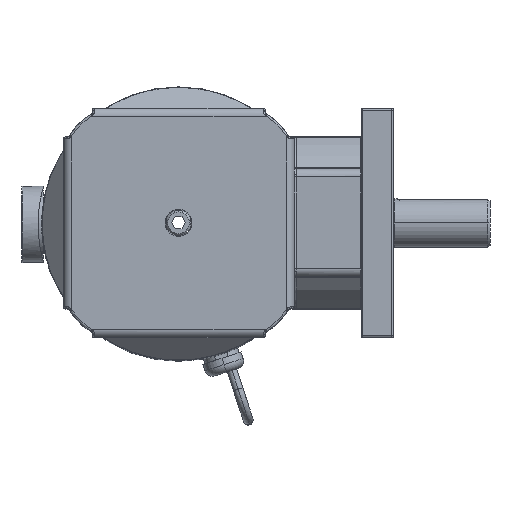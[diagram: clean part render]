
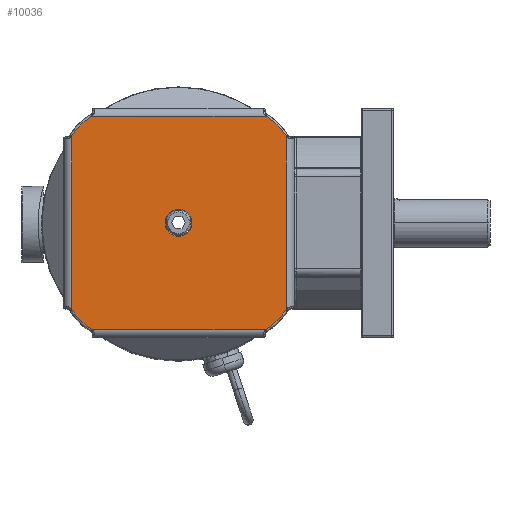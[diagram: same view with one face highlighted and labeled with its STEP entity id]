
A CAD part, top view. The second image highlights one B-rep face of the part: STEP entity #10036.
In plain terms, the highlighted planar face has unit normal (0, 0, 1).
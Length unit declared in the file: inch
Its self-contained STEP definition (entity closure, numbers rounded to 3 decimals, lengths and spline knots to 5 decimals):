
#2263 = CARTESIAN_POINT ( 'NONE',  ( 0.20931, 0., 3.432 ) ) ;
#2267 = CARTESIAN_POINT ( 'NONE',  ( -0.20931, 0., 3.432 ) ) ;
#2289 = DIRECTION ( 'NONE',  ( 1., 0., 0. ) ) ;
#2290 = DIRECTION ( 'NONE',  ( 0., 0., 1. ) ) ;
#2291 = CARTESIAN_POINT ( 'NONE',  ( 0., 0., 3.432 ) ) ;
#2292 = AXIS2_PLACEMENT_3D ( 'NONE', #2291, #2290, #2289 ) ;
#2293 = CIRCLE ( 'NONE', #2292, 0.20931 ) ;
#3884 = DIRECTION ( 'NONE',  ( -1., 0., 0. ) ) ;
#3885 = DIRECTION ( 'NONE',  ( 0., 0., 1. ) ) ;
#3886 = CARTESIAN_POINT ( 'NONE',  ( -0.85, 0.85, 3.432 ) ) ;
#3887 = AXIS2_PLACEMENT_3D ( 'NONE', #3886, #3885, #3884 ) ;
#3888 = CARTESIAN_POINT ( 'NONE',  ( -1.35163, 1.66, 3.432 ) ) ;
#3895 = CIRCLE ( 'NONE', #3887, 0.95275 ) ;
#3896 = CARTESIAN_POINT ( 'NONE',  ( -1.66, 1.35163, 3.432 ) ) ;
#6349 = CARTESIAN_POINT ( 'NONE',  ( -1.66, -1.35163, 3.432 ) ) ;
#6900 = CARTESIAN_POINT ( 'NONE',  ( 1.671, 1.35163, 3.432 ) ) ;
#6901 = DIRECTION ( 'NONE',  ( -1., 0., 0. ) ) ;
#6902 = DIRECTION ( 'NONE',  ( 0., 0., 1. ) ) ;
#6903 = CARTESIAN_POINT ( 'NONE',  ( 0.861, 0.85, 3.432 ) ) ;
#6904 = AXIS2_PLACEMENT_3D ( 'NONE', #6903, #6902, #6901 ) ;
#6905 = CIRCLE ( 'NONE', #6904, 0.95275 ) ;
#8724 = CARTESIAN_POINT ( 'NONE',  ( 1.671, -1.35163, 3.432 ) ) ;
#9015 = DIRECTION ( 'NONE',  ( 0., -1., 0. ) ) ;
#9016 = VECTOR ( 'NONE', #9015, 39.37008 ) ;
#9017 = CARTESIAN_POINT ( 'NONE',  ( -1.66, -1.785, 3.432 ) ) ;
#9018 = LINE ( 'NONE', #9017, #9016 ) ;
#9036 = DIRECTION ( 'NONE',  ( 0., 1., 0. ) ) ;
#9037 = VECTOR ( 'NONE', #9036, 39.37008 ) ;
#9038 = CARTESIAN_POINT ( 'NONE',  ( 1.671, 1.337, 3.432 ) ) ;
#9039 = LINE ( 'NONE', #9038, #9037 ) ;
#9094 = DIRECTION ( 'NONE',  ( -1., 0., 0. ) ) ;
#9095 = DIRECTION ( 'NONE',  ( 0., 0., -1. ) ) ;
#9096 = CARTESIAN_POINT ( 'NONE',  ( -1.785, -1.785, 3.432 ) ) ;
#9097 = AXIS2_PLACEMENT_3D ( 'NONE', #9096, #9095, #9094 ) ;
#9098 = PLANE ( 'NONE',  #9097 ) ;
#9099 = FACE_OUTER_BOUND ( 'NONE', #10044, .T. ) ;
#9100 = FACE_BOUND ( 'NONE', #10038, .T. ) ;
#9101 = DIRECTION ( 'NONE',  ( 1., 0., 0. ) ) ;
#9102 = DIRECTION ( 'NONE',  ( 0., 0., 1. ) ) ;
#9103 = AXIS2_PLACEMENT_3D ( 'NONE', #9109, #9102, #9101 ) ;
#9104 = CIRCLE ( 'NONE', #9103, 0.20931 ) ;
#9109 = CARTESIAN_POINT ( 'NONE',  ( 0., 0., 3.432 ) ) ;
#9310 = VERTEX_POINT ( 'NONE', #54347 ) ;
#9391 = EDGE_CURVE ( 'NONE', #9310, #13030, #13892, .T. ) ;
#9519 = VERTEX_POINT ( 'NONE', #6349 ) ;
#9566 = EDGE_CURVE ( 'NONE', #9567, #9310, #6905, .T. ) ;
#9567 = VERTEX_POINT ( 'NONE', #6900 ) ;
#9895 = VERTEX_POINT ( 'NONE', #8724 ) ;
#9968 = ORIENTED_EDGE ( 'NONE', *, *, #10004, .T. ) ;
#9970 = ORIENTED_EDGE ( 'NONE', *, *, #9566, .T. ) ;
#9972 = ORIENTED_EDGE ( 'NONE', *, *, #9391, .T. ) ;
#9974 = ORIENTED_EDGE ( 'NONE', *, *, #13029, .T. ) ;
#9977 = ORIENTED_EDGE ( 'NONE', *, *, #9979, .T. ) ;
#9979 = EDGE_CURVE ( 'NONE', #13027, #9519, #9018, .T. ) ;
#10004 = EDGE_CURVE ( 'NONE', #9895, #9567, #9039, .T. ) ;
#10034 = EDGE_CURVE ( 'NONE', #10713, #10819, #9104, .T. ) ;
#10036 = ADVANCED_FACE ( 'NONE', ( #9100, #9099 ), #9098, .F. ) ;
#10038 = EDGE_LOOP ( 'NONE', ( #10040, #10043 ) ) ;
#10040 = ORIENTED_EDGE ( 'NONE', *, *, #10034, .F. ) ;
#10043 = ORIENTED_EDGE ( 'NONE', *, *, #10724, .F. ) ;
#10044 = EDGE_LOOP ( 'NONE', ( #9968, #9970, #9972, #9974, #9977, #10150, #10152, #10153 ) ) ;
#10150 = ORIENTED_EDGE ( 'NONE', *, *, #10151, .T. ) ;
#10151 = EDGE_CURVE ( 'NONE', #9519, #49577, #43482, .T. ) ;
#10152 = ORIENTED_EDGE ( 'NONE', *, *, #49576, .T. ) ;
#10153 = ORIENTED_EDGE ( 'NONE', *, *, #10154, .T. ) ;
#10154 = EDGE_CURVE ( 'NONE', #49578, #9895, #43462, .T. ) ;
#10713 = VERTEX_POINT ( 'NONE', #2263 ) ;
#10724 = EDGE_CURVE ( 'NONE', #10819, #10713, #2293, .T. ) ;
#10819 = VERTEX_POINT ( 'NONE', #2267 ) ;
#13027 = VERTEX_POINT ( 'NONE', #3896 ) ;
#13029 = EDGE_CURVE ( 'NONE', #13030, #13027, #3895, .T. ) ;
#13030 = VERTEX_POINT ( 'NONE', #3888 ) ;
#13892 = LINE ( 'NONE', #13937, #13936 ) ;
#13935 = DIRECTION ( 'NONE',  ( -1., 0., 0. ) ) ;
#13936 = VECTOR ( 'NONE', #13935, 39.37008 ) ;
#13937 = CARTESIAN_POINT ( 'NONE',  ( -1.785, 1.66, 3.432 ) ) ;
#21186 = CARTESIAN_POINT ( 'NONE',  ( 1.36263, -1.66, 3.432 ) ) ;
#21187 = CARTESIAN_POINT ( 'NONE',  ( -1.35163, -1.66, 3.432 ) ) ;
#21188 = DIRECTION ( 'NONE',  ( 1., 0., 0. ) ) ;
#21189 = VECTOR ( 'NONE', #21188, 39.37008 ) ;
#21190 = CARTESIAN_POINT ( 'NONE',  ( -1.785, -1.66, 3.432 ) ) ;
#21191 = LINE ( 'NONE', #21190, #21189 ) ;
#43453 = DIRECTION ( 'NONE',  ( -1., 0., 0. ) ) ;
#43455 = DIRECTION ( 'NONE',  ( 0., 0., 1. ) ) ;
#43458 = CARTESIAN_POINT ( 'NONE',  ( 0.861, -0.85, 3.432 ) ) ;
#43460 = AXIS2_PLACEMENT_3D ( 'NONE', #43458, #43455, #43453 ) ;
#43462 = CIRCLE ( 'NONE', #43460, 0.95275 ) ;
#43473 = DIRECTION ( 'NONE',  ( -1., 0., 0. ) ) ;
#43475 = DIRECTION ( 'NONE',  ( 0., 0., 1. ) ) ;
#43478 = CARTESIAN_POINT ( 'NONE',  ( -0.85, -0.85, 3.432 ) ) ;
#43479 = AXIS2_PLACEMENT_3D ( 'NONE', #43478, #43475, #43473 ) ;
#43482 = CIRCLE ( 'NONE', #43479, 0.95275 ) ;
#49576 = EDGE_CURVE ( 'NONE', #49577, #49578, #21191, .T. ) ;
#49577 = VERTEX_POINT ( 'NONE', #21187 ) ;
#49578 = VERTEX_POINT ( 'NONE', #21186 ) ;
#54347 = CARTESIAN_POINT ( 'NONE',  ( 1.36263, 1.66, 3.432 ) ) ;
